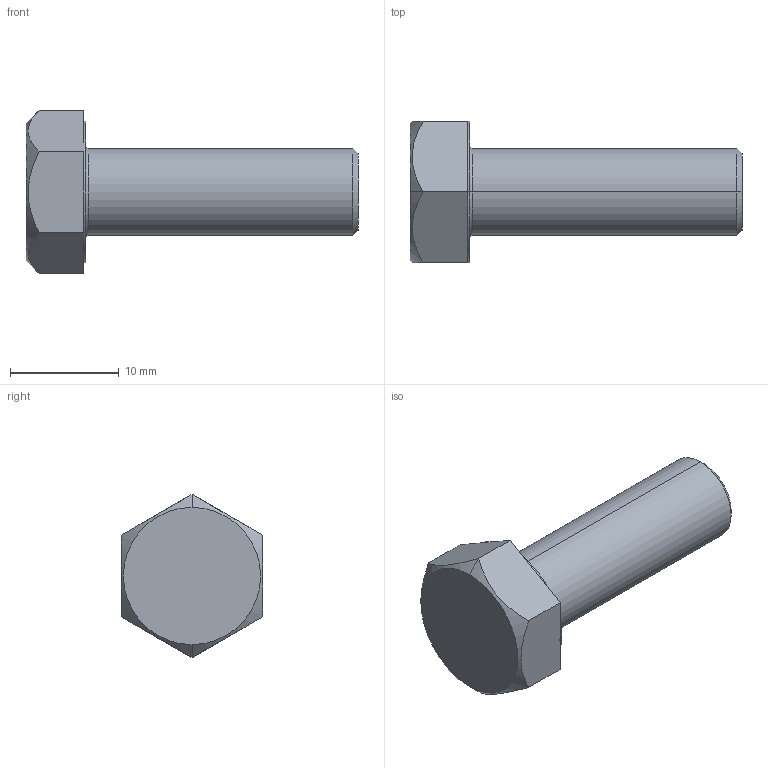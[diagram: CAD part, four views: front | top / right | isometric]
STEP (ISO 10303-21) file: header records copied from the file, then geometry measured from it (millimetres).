
FILE_DESCRIPTION (( 'STEP AP203' ), '1' );
FILE_NAME ('LGN-TD-M8x25.STEP', '2026-08-14T04:19:03', ( '' ), ( '' ), 'SwSTEP 2.0', 'SolidWorks 2020', '' );
FILE_SCHEMA (( 'CONFIG_CONTROL_DESIGN' ));
Length unit declared in the file: millimetre
Products named in the file (1): LGN-TD-M8x25
Bounding box: 30.5 x 13 x 15.01 mm (x, y, z)
Volume: 2048.5 mm3; surface area: 1142.6 mm2
Topology: 1 solids, 1 shells, 25 faces, 54 edges, 32 vertices
Faces by surface type: plane 15, cone 4, cylinder 4, torus 2
Entity records: 809 total; most frequent: CARTESIAN_POINT 182, DIRECTION 122, ORIENTED_EDGE 108, EDGE_CURVE 54, AXIS2_PLACEMENT_3D 48, VERTEX_POINT 32, LINE 26, VECTOR 26
